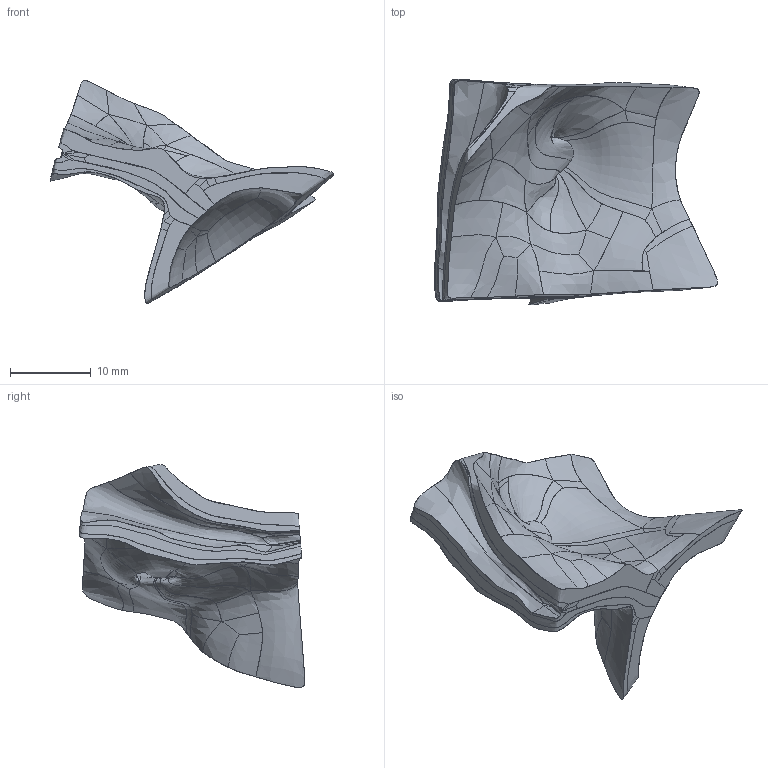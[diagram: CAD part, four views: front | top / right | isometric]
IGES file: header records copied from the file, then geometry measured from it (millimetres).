
Global section: file name: C:\FDA Main\FDA-Septal-Models\5720451\5720451.phase.70.igs; native system: Rhinoceros ( Mar  9 2011 ); preprocessor: Trout Lake IGES 012 Mar  9 2011; date: 120615.143610; units: millimetre
Bounding box: 34.99 x 27.87 x 27.54 mm (x, y, z)
Surface area: 2656.1 mm2 (no closed solid volume)
Topology: 0 solids, 0 shells, 119 faces, 476 edges, 476 vertices
Faces by surface type: bspline 119
